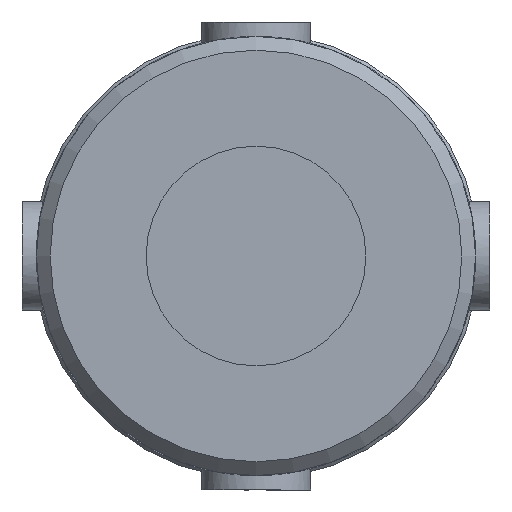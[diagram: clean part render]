
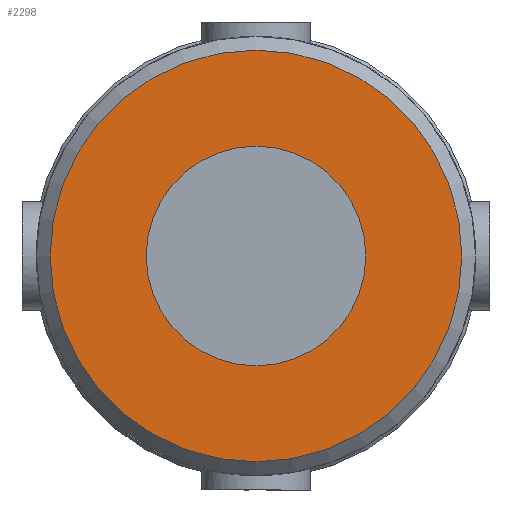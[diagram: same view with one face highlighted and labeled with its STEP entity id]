
A CAD part, left-side view. The second image highlights one B-rep face of the part: STEP entity #2298.
In plain terms, the highlighted planar face has unit normal (-1, 0, 0) as drawn and (0, -1, 0) by its records, which use the part's own axes.
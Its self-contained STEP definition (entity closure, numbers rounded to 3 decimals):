
#78=PLANE('',#2450);
#512=FACE_BOUND('',#704,.T.);
#555=FACE_OUTER_BOUND('',#703,.T.);
#703=EDGE_LOOP('',(#1594));
#704=EDGE_LOOP('',(#1595));
#884=CIRCLE('',#2445,8.);
#886=CIRCLE('',#2448,15.);
#1000=VERTEX_POINT('',#3400);
#1002=VERTEX_POINT('',#3405);
#1241=EDGE_CURVE('',#1000,#1000,#884,.T.);
#1243=EDGE_CURVE('',#1002,#1002,#886,.T.);
#1594=ORIENTED_EDGE('',*,*,#1243,.F.);
#1595=ORIENTED_EDGE('',*,*,#1241,.T.);
#2298=ADVANCED_FACE('',(#555,#512),#78,.F.);
#2445=AXIS2_PLACEMENT_3D('',#3401,#2718,#2719);
#2448=AXIS2_PLACEMENT_3D('',#3406,#2724,#2725);
#2450=AXIS2_PLACEMENT_3D('',#3582,#2732,#2733);
#2718=DIRECTION('center_axis',(0.,1.,0.));
#2719=DIRECTION('ref_axis',(-1.,0.,0.));
#2724=DIRECTION('center_axis',(0.,1.,0.));
#2725=DIRECTION('ref_axis',(1.,0.,0.));
#2732=DIRECTION('center_axis',(0.,1.,0.));
#2733=DIRECTION('ref_axis',(0.,0.,1.));
#3400=CARTESIAN_POINT('',(8.,-42.,0.));
#3401=CARTESIAN_POINT('Origin',(0.,-42.,0.));
#3405=CARTESIAN_POINT('',(-15.,-42.,0.));
#3406=CARTESIAN_POINT('Origin',(0.,-42.,0.));
#3582=CARTESIAN_POINT('Origin',(0.,-42.,0.));
